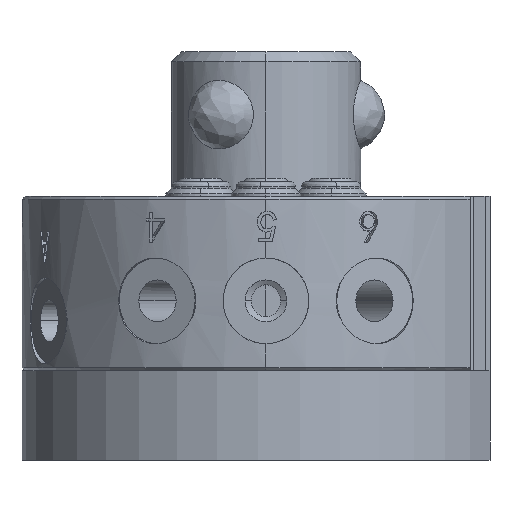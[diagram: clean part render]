
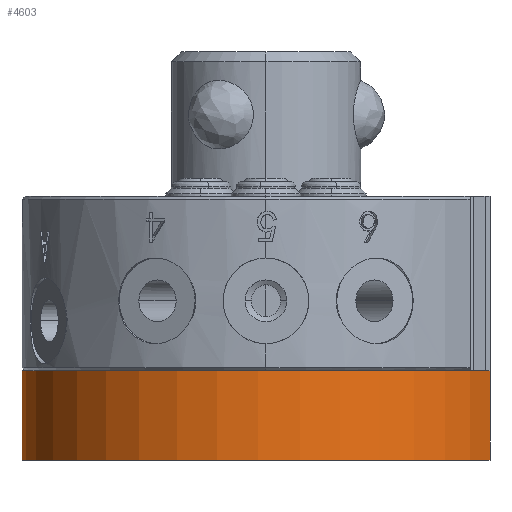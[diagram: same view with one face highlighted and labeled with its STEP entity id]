
A CAD part, left-side view. The second image highlights one B-rep face of the part: STEP entity #4603.
In plain terms, the highlighted cylindrical face has radius 24.5 mm (diameter 49 mm), a partial arc.
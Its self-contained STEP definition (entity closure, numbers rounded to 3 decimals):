
#1048 = EDGE_CURVE ( 'NONE', #9303, #17942, #6237, .T. ) ;
#1164 = DIRECTION ( 'NONE',  ( 0., -1., 0. ) ) ;
#1332 = CARTESIAN_POINT ( 'NONE',  ( 0., 0., -41. ) ) ;
#2226 = EDGE_CURVE ( 'NONE', #17942, #15499, #5107, .T. ) ;
#2770 = DIRECTION ( 'NONE',  ( 0., 0., 1. ) ) ;
#3090 = EDGE_CURVE ( 'NONE', #16582, #9303, #3435, .T. ) ;
#3220 = ORIENTED_EDGE ( 'NONE', *, *, #1048, .T. ) ;
#3435 = LINE ( 'NONE', #15984, #17934 ) ;
#3715 = CARTESIAN_POINT ( 'NONE',  ( 9.695, -22.5, -32. ) ) ;
#4365 = CARTESIAN_POINT ( 'NONE',  ( -9.695, -22.5, -32. ) ) ;
#4603 = ADVANCED_FACE ( 'NONE', ( #6266 ), #16572, .T. ) ;
#4672 = VECTOR ( 'NONE', #11199, 1000. ) ;
#4767 = AXIS2_PLACEMENT_3D ( 'NONE', #5167, #14995, #6586 ) ;
#5107 = LINE ( 'NONE', #12606, #4672 ) ;
#5167 = CARTESIAN_POINT ( 'NONE',  ( 0., 0., -41. ) ) ;
#5626 = CIRCLE ( 'NONE', #12673, 24.5 ) ;
#6237 = CIRCLE ( 'NONE', #4767, 24.5 ) ;
#6266 = FACE_OUTER_BOUND ( 'NONE', #12035, .T. ) ;
#6345 = DIRECTION ( 'NONE',  ( 0., 0., -1. ) ) ;
#6586 = DIRECTION ( 'NONE',  ( 0., -1., 0. ) ) ;
#7921 = CARTESIAN_POINT ( 'NONE',  ( 9.695, -22.5, -41. ) ) ;
#8034 = AXIS2_PLACEMENT_3D ( 'NONE', #1332, #2770, #9818 ) ;
#9303 = VERTEX_POINT ( 'NONE', #7921 ) ;
#9637 = DIRECTION ( 'NONE',  ( 0., 0., -1. ) ) ;
#9818 = DIRECTION ( 'NONE',  ( 0., -1., 0. ) ) ;
#10375 = ORIENTED_EDGE ( 'NONE', *, *, #2226, .T. ) ;
#10725 = EDGE_CURVE ( 'NONE', #15499, #16582, #5626, .T. ) ;
#11199 = DIRECTION ( 'NONE',  ( 0., 0., 1. ) ) ;
#12035 = EDGE_LOOP ( 'NONE', ( #10375, #13564, #12633, #3220 ) ) ;
#12606 = CARTESIAN_POINT ( 'NONE',  ( -9.695, -22.5, -51.494 ) ) ;
#12633 = ORIENTED_EDGE ( 'NONE', *, *, #3090, .T. ) ;
#12673 = AXIS2_PLACEMENT_3D ( 'NONE', #18033, #9637, #1164 ) ;
#13564 = ORIENTED_EDGE ( 'NONE', *, *, #10725, .T. ) ;
#14995 = DIRECTION ( 'NONE',  ( 0., 0., 1. ) ) ;
#15499 = VERTEX_POINT ( 'NONE', #4365 ) ;
#15984 = CARTESIAN_POINT ( 'NONE',  ( 9.695, -22.5, -51.494 ) ) ;
#16572 = CYLINDRICAL_SURFACE ( 'NONE', #8034, 24.5 ) ;
#16582 = VERTEX_POINT ( 'NONE', #3715 ) ;
#17934 = VECTOR ( 'NONE', #6345, 1000. ) ;
#17942 = VERTEX_POINT ( 'NONE', #18134 ) ;
#18033 = CARTESIAN_POINT ( 'NONE',  ( 0., 0., -32. ) ) ;
#18134 = CARTESIAN_POINT ( 'NONE',  ( -9.695, -22.5, -41. ) ) ;
